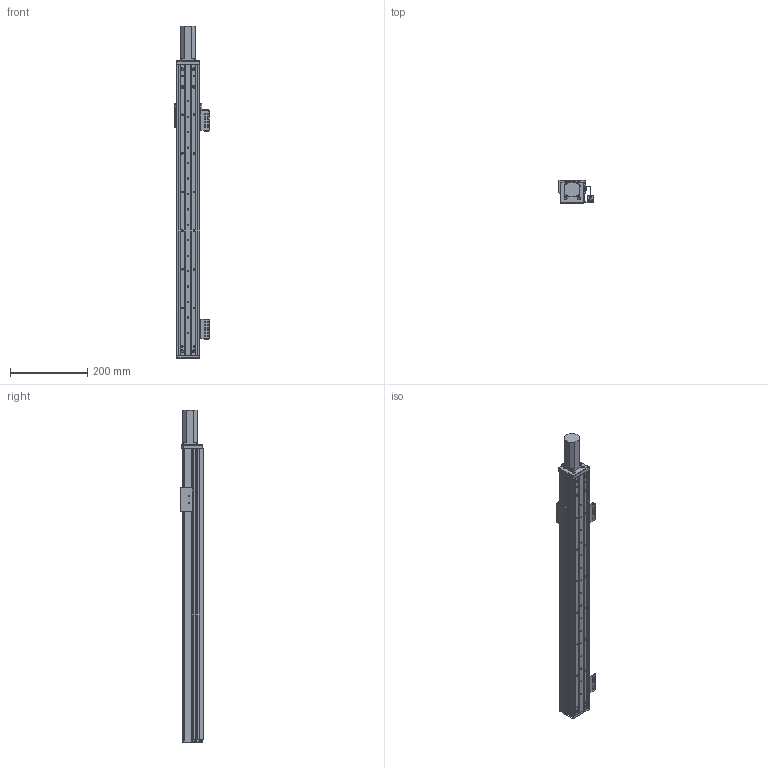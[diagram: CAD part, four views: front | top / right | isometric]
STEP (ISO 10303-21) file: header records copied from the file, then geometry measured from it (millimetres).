
FILE_DESCRIPTION (( 'STEP AP203' ), '1' );
FILE_NAME ('RY60FB-L1210-300-MK.SLDASM_550.step', '2021-02-22T08:25:37', ( '盈信电脑' ), ( '东莞市道滘镇水果街19号' ), 'SwSTEP 2.0', 'SolidWorks 2012', '' );
FILE_SCHEMA (( 'CONFIG_CONTROL_DESIGN' ));
Length unit declared in the file: millimetre
Products named in the file (14): RY60FB-674嫖萇耀輸; RY80俋离覜茼え; RY60FB-L1210-300-MK.SLDASM_550; RY60FB綴裔啣; 覜茼ん674; RY60FB-感应器674光电安装座; 侂狟100W; 滅袉蝶18-20; RY60FB前盖板100(M3); RY60FB-300-奻裔-MK_550; 滅袉蝶18-10; RY60FB-臏賑輸; RY60FB-300-菁釱-MK_550
Assembly tree (18 placements, depth 3):
  RY60FB-L1210-300-MK.SLDASM_550
    RY60FB-300-菁釱-MK_550
    RY60FB-臏賑輸
    滅袉蝶18-20  x2
    滅袉蝶18-10  x2
    RY60FB-300-奻裔-MK_550
    RY60FB前盖板100(M3)
    侂狟100W
    RY60FB綴裔啣
    RY60FB-674嫖萇耀輸
      RY60FB-感应器674光电安装座
      覜茼ん674  x2
    RY80俋离覜茼え
    RY60FB-674嫖萇耀輸
      RY60FB-感应器674光电安装座
      覜茼ん674
Bounding box: 90 x 58.5 x 860 mm (x, y, z)
Volume: 946984.6 mm3; surface area: 515510.6 mm2
Topology: 16 solids, 16 shells, 977 faces, 2698 edges, 1743 vertices
Faces by surface type: plane 474, cylinder 436, cone 67
Entity records: 27582 total; most frequent: CARTESIAN_POINT 5153, DIRECTION 4416, ORIENTED_EDGE 4296, EDGE_CURVE 2148, AXIS2_PLACEMENT_3D 1566, VERTEX_POINT 1399, VECTOR 1284, LINE 1284
